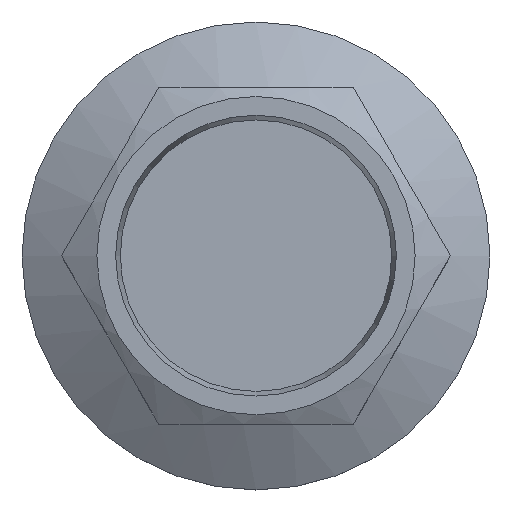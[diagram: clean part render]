
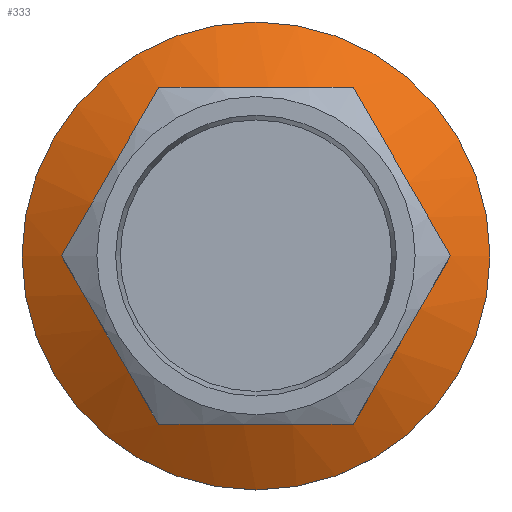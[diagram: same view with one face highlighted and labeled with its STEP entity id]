
A CAD part, top view. The second image highlights one B-rep face of the part: STEP entity #333.
In plain terms, the highlighted conical face has half-angle 60 degrees and reference radius 19.844 mm.
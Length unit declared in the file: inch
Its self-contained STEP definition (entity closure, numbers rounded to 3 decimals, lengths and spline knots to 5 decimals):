
#69=FACE_BOUND('',#119,.T.);
#78=CIRCLE('',#361,0.78125);
#93=FACE_OUTER_BOUND('',#118,.T.);
#118=EDGE_LOOP('',(#254));
#119=EDGE_LOOP('',(#255,#256,#257,#258,#259,#260));
#152=(
BOUNDED_CURVE()
B_SPLINE_CURVE(2,(#485,#486,#487),.UNSPECIFIED.,.F.,.F.)
B_SPLINE_CURVE_WITH_KNOTS((3,3),(0.,1.6694),.UNSPECIFIED.)
CURVE()
GEOMETRIC_REPRESENTATION_ITEM()
RATIONAL_B_SPLINE_CURVE((1.,1.155,1.))
REPRESENTATION_ITEM('')
);
#153=(
BOUNDED_CURVE()
B_SPLINE_CURVE(2,(#492,#493,#494),.UNSPECIFIED.,.F.,.F.)
B_SPLINE_CURVE_WITH_KNOTS((3,3),(0.,1.6694),.UNSPECIFIED.)
CURVE()
GEOMETRIC_REPRESENTATION_ITEM()
RATIONAL_B_SPLINE_CURVE((1.,1.155,1.))
REPRESENTATION_ITEM('')
);
#154=(
BOUNDED_CURVE()
B_SPLINE_CURVE(2,(#498,#499,#500),.UNSPECIFIED.,.F.,.F.)
B_SPLINE_CURVE_WITH_KNOTS((3,3),(0.,1.6694),.UNSPECIFIED.)
CURVE()
GEOMETRIC_REPRESENTATION_ITEM()
RATIONAL_B_SPLINE_CURVE((1.,1.155,1.))
REPRESENTATION_ITEM('')
);
#155=(
BOUNDED_CURVE()
B_SPLINE_CURVE(2,(#505,#506,#507),.UNSPECIFIED.,.F.,.F.)
B_SPLINE_CURVE_WITH_KNOTS((3,3),(0.,1.6694),.UNSPECIFIED.)
CURVE()
GEOMETRIC_REPRESENTATION_ITEM()
RATIONAL_B_SPLINE_CURVE((1.,1.155,1.))
REPRESENTATION_ITEM('')
);
#156=(
BOUNDED_CURVE()
B_SPLINE_CURVE(2,(#509,#510,#511),.UNSPECIFIED.,.F.,.F.)
B_SPLINE_CURVE_WITH_KNOTS((3,3),(0.,1.6694),.UNSPECIFIED.)
CURVE()
GEOMETRIC_REPRESENTATION_ITEM()
RATIONAL_B_SPLINE_CURVE((1.,1.155,1.))
REPRESENTATION_ITEM('')
);
#157=(
BOUNDED_CURVE()
B_SPLINE_CURVE(2,(#512,#513,#514),.UNSPECIFIED.,.F.,.F.)
B_SPLINE_CURVE_WITH_KNOTS((3,3),(0.,1.6694),.UNSPECIFIED.)
CURVE()
GEOMETRIC_REPRESENTATION_ITEM()
RATIONAL_B_SPLINE_CURVE((1.,1.155,1.))
REPRESENTATION_ITEM('')
);
#165=VERTEX_POINT('',#482);
#166=VERTEX_POINT('',#484);
#167=VERTEX_POINT('',#490);
#168=VERTEX_POINT('',#496);
#169=VERTEX_POINT('',#502);
#170=VERTEX_POINT('',#504);
#171=VERTEX_POINT('',#508);
#198=EDGE_CURVE('',#166,#165,#152,.T.);
#201=EDGE_CURVE('',#165,#167,#153,.T.);
#203=EDGE_CURVE('',#167,#168,#154,.T.);
#204=EDGE_CURVE('',#169,#169,#78,.T.);
#205=EDGE_CURVE('',#170,#166,#155,.T.);
#206=EDGE_CURVE('',#168,#171,#156,.T.);
#207=EDGE_CURVE('',#171,#170,#157,.T.);
#254=ORIENTED_EDGE('',*,*,#204,.T.);
#255=ORIENTED_EDGE('',*,*,#205,.T.);
#256=ORIENTED_EDGE('',*,*,#198,.T.);
#257=ORIENTED_EDGE('',*,*,#201,.T.);
#258=ORIENTED_EDGE('',*,*,#203,.T.);
#259=ORIENTED_EDGE('',*,*,#206,.T.);
#260=ORIENTED_EDGE('',*,*,#207,.T.);
#326=CONICAL_SURFACE('',#360,0.78125,60.);
#333=ADVANCED_FACE('',(#93,#69),#326,.T.);
#360=AXIS2_PLACEMENT_3D('',#501,#399,#400);
#361=AXIS2_PLACEMENT_3D('',#503,#401,#402);
#399=DIRECTION('center_axis',(0.,0.,-1.));
#400=DIRECTION('ref_axis',(1.,0.,0.));
#401=DIRECTION('center_axis',(0.,0.,1.));
#402=DIRECTION('ref_axis',(1.,0.,0.));
#482=CARTESIAN_POINT('',(0.64952,0.,-0.61145));
#484=CARTESIAN_POINT('',(0.32476,0.5625,-0.61145));
#485=CARTESIAN_POINT('Ctrl Pts',(0.32476,0.5625,-0.61145));
#486=CARTESIAN_POINT('Ctrl Pts',(0.48714,0.28125,-0.5177));
#487=CARTESIAN_POINT('Ctrl Pts',(0.64952,0.,
-0.61145));
#490=CARTESIAN_POINT('',(0.32476,-0.5625,-0.61145));
#492=CARTESIAN_POINT('Ctrl Pts',(0.64952,0.,
-0.61145));
#493=CARTESIAN_POINT('Ctrl Pts',(0.48714,-0.28125,-0.5177));
#494=CARTESIAN_POINT('Ctrl Pts',(0.32476,-0.5625,-0.61145));
#496=CARTESIAN_POINT('',(-0.32476,-0.5625,-0.61145));
#498=CARTESIAN_POINT('Ctrl Pts',(0.32476,-0.5625,-0.61145));
#499=CARTESIAN_POINT('Ctrl Pts',(0.,-0.5625,-0.5177));
#500=CARTESIAN_POINT('Ctrl Pts',(-0.32476,-0.5625,-0.61145));
#501=CARTESIAN_POINT('Origin',(0.,0.,-0.6875));
#502=CARTESIAN_POINT('',(0.78125,0.,-0.6875));
#503=CARTESIAN_POINT('Origin',(0.,0.,-0.6875));
#504=CARTESIAN_POINT('',(-0.32476,0.5625,-0.61145));
#505=CARTESIAN_POINT('Ctrl Pts',(-0.32476,0.5625,-0.61145));
#506=CARTESIAN_POINT('Ctrl Pts',(0.,0.5625,-0.5177));
#507=CARTESIAN_POINT('Ctrl Pts',(0.32476,0.5625,-0.61145));
#508=CARTESIAN_POINT('',(-0.64952,0.,-0.61145));
#509=CARTESIAN_POINT('Ctrl Pts',(-0.32476,-0.5625,
-0.61145));
#510=CARTESIAN_POINT('Ctrl Pts',(-0.48714,-0.28125,-0.5177));
#511=CARTESIAN_POINT('Ctrl Pts',(-0.64952,0.,
-0.61145));
#512=CARTESIAN_POINT('Ctrl Pts',(-0.64952,0.,
-0.61145));
#513=CARTESIAN_POINT('Ctrl Pts',(-0.48714,0.28125,-0.5177));
#514=CARTESIAN_POINT('Ctrl Pts',(-0.32476,0.5625,-0.61145));
